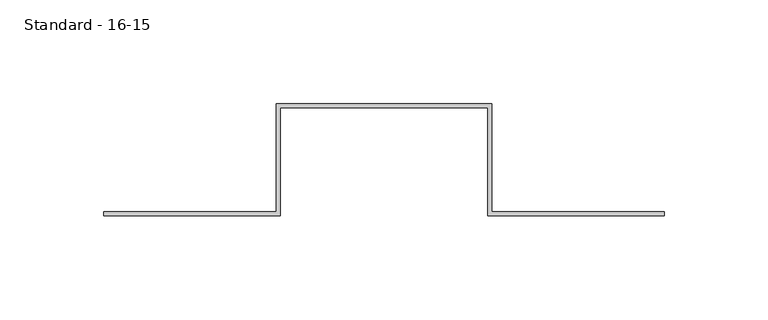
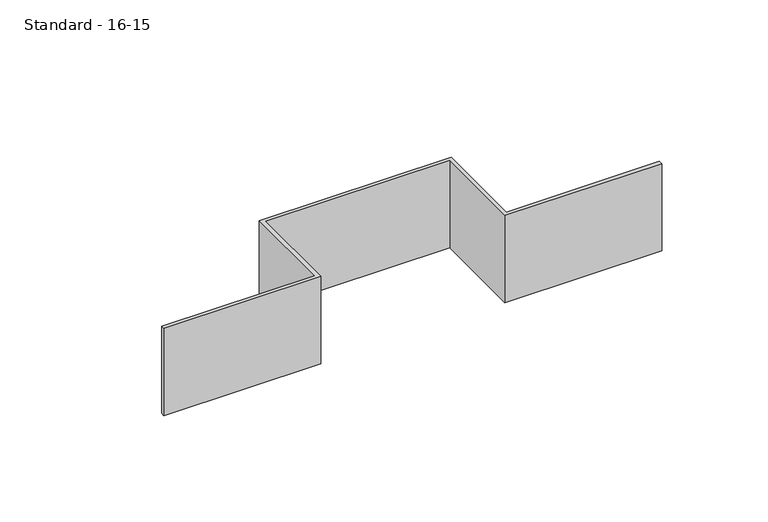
"""IFC4 building model written with IfcOpenShell, lengths in millimetres: pipe fitting geometry, PIF_Tigris_Single_Plate_Elbow_FMT_Wavin_(multiport) : Standard - 16-15."""

from ifc_helpers import new_model, si_unit, frame, origin, place, context, project, spatial, polyline, outline, extrude, source, transform, mapped, element, save


def standard_16_15_64cd6acc(model_context):
    return source(origin(), model_context, "Body", "SweptSolid", [
        extrude(outline(polyline([(-50.0, -52.0), (-135.0, -52.0), (-135.0, -50.0), (-52.0, -50.0), (-52.0, 2.0), (52.0, 2.0), (52.0, -50.0), (135.0, -50.0), (135.0, -52.0), (50.0, -52.0), (50.0, 0.0), (-50.0, 0.0), (-50.0, -52.0)])), frame((0.0, 0.0, -25.0), z_axis=(0.0, 0.0, 1.0), x_axis=(1.0, 0.0, 0.0)), (0.0, 0.0, 1.0), 50.0),
    ])


if __name__ == "__main__":
    model = new_model("IFC4")
    model_context = context("Model", 3, world=origin())
    ifc_project = project(units=[si_unit("LENGTHUNIT", "METRE", prefix="MILLI")], contexts=[model_context])
    site = spatial("IfcSite", under=ifc_project)
    building = spatial("IfcBuilding", under=site)
    placement = place(None, origin())
    standard_16_15_shape = standard_16_15_64cd6acc(model_context)
    element("IfcPipeFitting", 1, ObjectType="PIF_Tigris_Single_Plate_Elbow_FMT_Wavin_(multiport) : Standard - 16-15", at=placement, inside=building, context=model_context, shape_type="MappedRepresentation", body=[
        mapped(standard_16_15_shape, transform((0.0, 0.0, 0.0), x_axis=(1.0, 0.0, 0.0), y_axis=(0.0, 1.0, 0.0), z_axis=(0.0, 0.0, 1.0))),
    ])
    save(model, "model.ifc")
